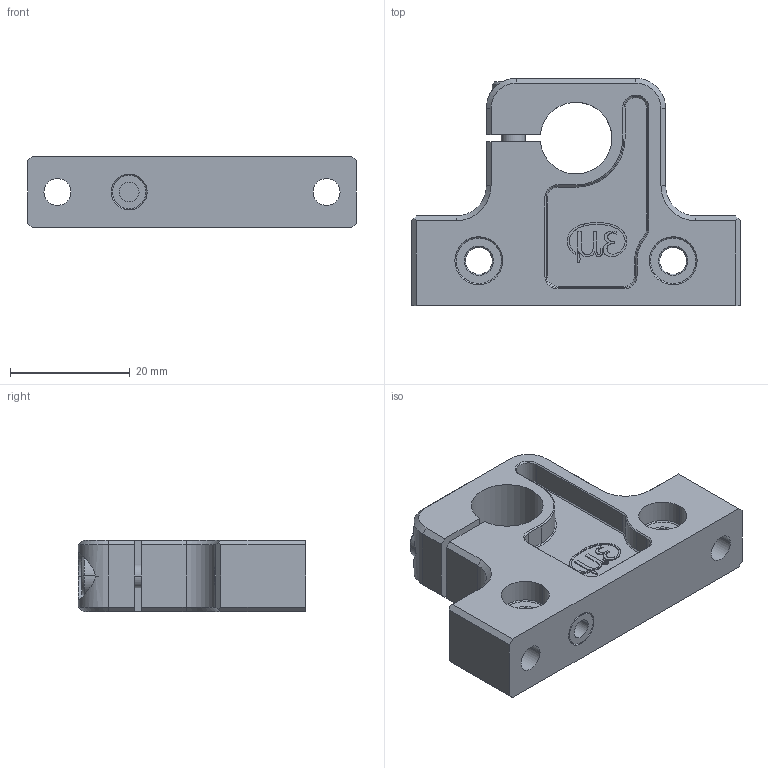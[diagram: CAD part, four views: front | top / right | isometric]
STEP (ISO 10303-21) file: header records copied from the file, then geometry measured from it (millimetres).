
FILE_DESCRIPTION((''),'2;1');
FILE_NAME('0000849337','2025-08-14T08:12:07',('pdmservice'),(''),'CREO PARAMETRIC BY PTC INC, 2024014','CREO PARAMETRIC BY PTC INC, 2024014','');
FILE_SCHEMA(('AUTOMOTIVE_DESIGN { 1 0 10303 214 1 1 1 1 }'));
Length unit declared in the file: millimetre
Products named in the file (1): 0000849337
Bounding box: 55 x 38 x 12 mm (x, y, z)
Volume: 12267.5 mm3; surface area: 7859.8 mm2
Topology: 1 solids, 1 shells, 340 faces, 857 edges, 540 vertices
Faces by surface type: plane 144, extrusion 71, cylinder 63, cone 60, torus 2
Entity records: 19808 total; most frequent: CARTESIAN_POINT 5814, ORIENTED_EDGE 1714, DIRECTION 1500, PRESENTATION_STYLE_ASSIGNMENT 1269, STYLED_ITEM 929, CURVE_STYLE 928, EDGE_CURVE 857, VECTOR 590
